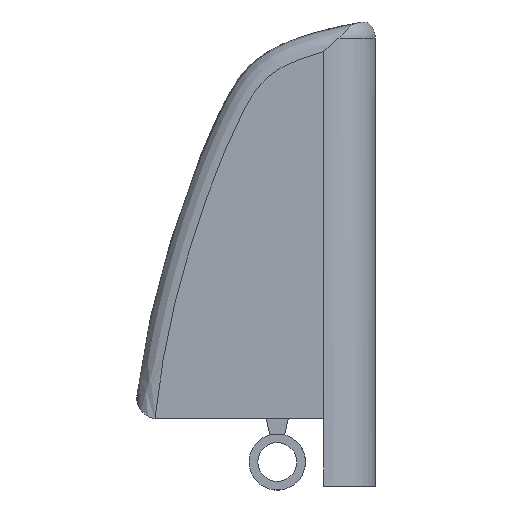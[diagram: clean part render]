
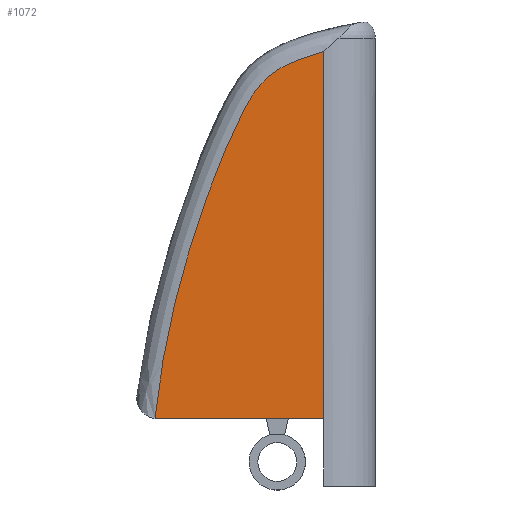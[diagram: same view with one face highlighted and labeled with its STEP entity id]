
A CAD part, front view. The second image highlights one B-rep face of the part: STEP entity #1072.
In plain terms, the highlighted planar face has unit normal (0, -1, 0).
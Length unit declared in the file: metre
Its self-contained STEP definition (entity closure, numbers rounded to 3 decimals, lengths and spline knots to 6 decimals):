
#44=B_SPLINE_CURVE_WITH_KNOTS('',3,(#1778,#1779,#1780,#1781,#1782,#1783,
#1784,#1785,#1786,#1787,#1788,#1789,#1790),.UNSPECIFIED.,.F.,.F.,(4,1,1,
1,1,1,1,1,1,1,4),(0.,0.00266,0.005321,0.007981,
0.010642,0.013302,0.015963,0.021284,
0.026605,0.031926,0.042568),.UNSPECIFIED.);
#54=LINE('',#1510,#164);
#106=LINE('',#1794,#216);
#164=VECTOR('',#1226,1.);
#216=VECTOR('',#1324,1.);
#364=ORIENTED_EDGE('',*,*,#679,.T.);
#365=ORIENTED_EDGE('',*,*,#680,.T.);
#366=ORIENTED_EDGE('',*,*,#601,.F.);
#367=ORIENTED_EDGE('',*,*,#681,.T.);
#601=EDGE_CURVE('',#764,#765,#54,.T.);
#679=EDGE_CURVE('',#831,#832,#44,.T.);
#680=EDGE_CURVE('',#832,#765,#883,.F.);
#681=EDGE_CURVE('',#764,#831,#106,.F.);
#764=VERTEX_POINT('',#1509);
#765=VERTEX_POINT('',#1511);
#831=VERTEX_POINT('',#1791);
#832=VERTEX_POINT('',#1792);
#883=CIRCLE('',#1157,0.002044);
#913=EDGE_LOOP('',(#364,#365,#366,#367));
#976=FACE_BOUND('',#913,.T.);
#1030=PLANE('',#1156);
#1072=ADVANCED_FACE('',(#976),#1030,.F.);
#1156=AXIS2_PLACEMENT_3D('',#1777,#1320,#1321);
#1157=AXIS2_PLACEMENT_3D('',#1793,#1322,#1323);
#1226=DIRECTION('',(-1.,0.,0.));
#1320=DIRECTION('',(0.,1.,0.));
#1321=DIRECTION('',(0.,0.,1.));
#1322=DIRECTION('',(0.,1.,0.));
#1323=DIRECTION('',(0.,0.,1.));
#1324=DIRECTION('',(0.,0.,-1.));
#1509=CARTESIAN_POINT('',(0.028508,-0.035452,0.130972));
#1510=CARTESIAN_POINT('',(0.033617,-0.035452,0.130972));
#1511=CARTESIAN_POINT('',(0.011931,-0.035452,0.130972));
#1777=CARTESIAN_POINT('',(0.033617,-0.035452,0.149565));
#1778=CARTESIAN_POINT('',(0.028508,-0.035452,0.167532));
#1779=CARTESIAN_POINT('',(0.027654,-0.035452,0.167294));
#1780=CARTESIAN_POINT('',(0.025967,-0.035452,0.166758));
#1781=CARTESIAN_POINT('',(0.023531,-0.035452,0.165648));
#1782=CARTESIAN_POINT('',(0.021628,-0.035452,0.16374));
#1783=CARTESIAN_POINT('',(0.020344,-0.035452,0.161398));
#1784=CARTESIAN_POINT('',(0.019225,-0.035452,0.159003));
#1785=CARTESIAN_POINT('',(0.017845,-0.035452,0.155741));
#1786=CARTESIAN_POINT('',(0.016308,-0.035452,0.151598));
#1787=CARTESIAN_POINT('',(0.014711,-0.035452,0.146537));
#1788=CARTESIAN_POINT('',(0.012923,-0.035452,0.139725));
#1789=CARTESIAN_POINT('',(0.012064,-0.035452,0.134508));
#1790=CARTESIAN_POINT('',(0.011699,-0.035452,0.130985));
#1791=CARTESIAN_POINT('',(0.028508,-0.035452,0.167532));
#1792=CARTESIAN_POINT('',(0.011699,-0.035452,0.130985));
#1793=CARTESIAN_POINT('',(0.011931,-0.035452,0.133015));
#1794=CARTESIAN_POINT('',(0.028508,-0.035452,0.162744));
